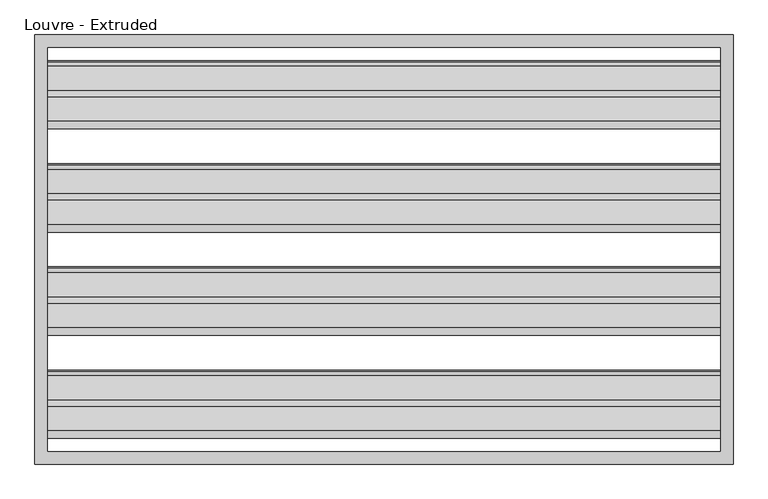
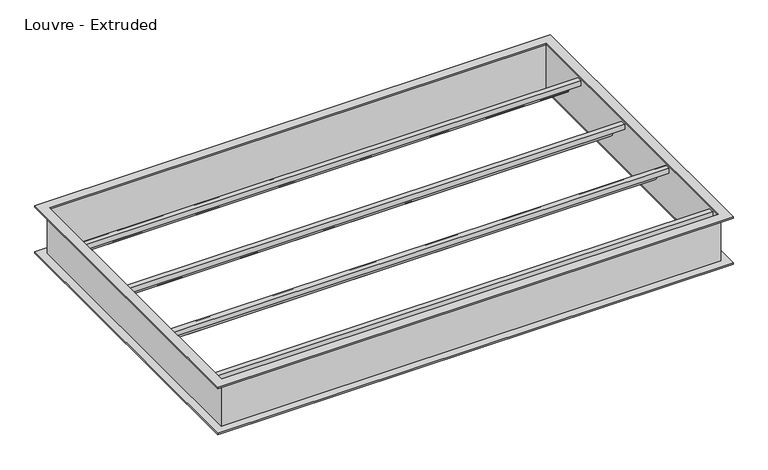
"""IFC4 building model written with IfcOpenShell, lengths in millimetres: air terminal geometry, Louvre - Extruded : Standard Exaust."""

from ifc_helpers import new_model, si_unit, point, frame, frame_2d, origin, place, context, project, spatial, polyline, circle_curve, trimmed, segment, composite_curve, outline, extrude, source, transform, mapped, element, save


def louvre_extruded_d47c0ff8(model_context):
    return source(origin(), model_context, "Body", "SweptSolid", [
        extrude(outline(composite_curve([segment(polyline([(25.9166667, -16.66875), (25.9166667, -6.35), (37.0291667, -6.35), (72.9606117, -44.7233879)]), True, "CONTINUOUS"), segment(trimmed(circle_curve(frame_2d((76.7166667, -50.8)), 7.14375), [point((72.9606117, -44.7233879))], [point((82.5335566, -54.9469213))], True, "CARTESIAN"), True, "CONTINUOUS"), segment(polyline([(82.5335566, -54.9469213), (118.7854167, -93.6625), (125.9291667, -93.6625), (125.9291667, -84.93125), (127.5166667, -84.93125), (127.5166667, -95.25), (117.9916667, -95.25), (82.497417, -57.3435198)]), True, "CONTINUOUS"), segment(trimmed(circle_curve(frame_2d((76.7166667, -50.8)), 8.73125), [point((82.497417, -57.3435198))], [point((70.5668115, -44.6020965))], False, "CARTESIAN"), True, "CONTINUOUS"), segment(polyline([(70.5668115, -44.6020965), (36.2354167, -7.9375), (27.5041667, -7.9375), (27.5041667, -16.66875), (25.9166667, -16.66875)]), True, "CONTINUOUS")], self_intersect=False)), frame((-500.0, 0.0, 0.0), z_axis=(1.0, 0.0, 0.0), x_axis=(0.0, 1.0, 0.0)), (0.0, 0.0, 1.0), 1000.0),
        extrude(outline(composite_curve([segment(polyline([(-127.5166667, -16.66875), (-127.5166667, -6.35), (-116.4041667, -6.35), (-80.4727217, -44.7233879)]), True, "CONTINUOUS"), segment(trimmed(circle_curve(frame_2d((-76.7166667, -50.8)), 7.14375), [point((-80.4727217, -44.7233879))], [point((-70.8997768, -54.9469213))], True, "CARTESIAN"), True, "CONTINUOUS"), segment(polyline([(-70.8997768, -54.9469213), (-34.6479167, -93.6625), (-27.5041667, -93.6625), (-27.5041667, -84.93125), (-25.9166667, -84.93125), (-25.9166667, -95.25), (-35.4416667, -95.25), (-70.9359163, -57.3435198)]), True, "CONTINUOUS"), segment(trimmed(circle_curve(frame_2d((-76.7166667, -50.8)), 8.73125), [point((-70.9359163, -57.3435198))], [point((-82.8665218, -44.6020965))], False, "CARTESIAN"), True, "CONTINUOUS"), segment(polyline([(-82.8665218, -44.6020965), (-117.1979167, -7.9375), (-125.9291667, -7.9375), (-125.9291667, -16.66875), (-127.5166667, -16.66875)]), True, "CONTINUOUS")], self_intersect=False)), frame((-500.0, 0.0, 0.0), z_axis=(1.0, 0.0, 0.0), x_axis=(0.0, 1.0, 0.0)), (0.0, 0.0, 1.0), 1000.0),
        extrude(outline(composite_curve([segment(polyline([(179.35, -16.66875), (179.35, -6.35), (190.4625, -6.35), (226.393945, -44.7233879)]), True, "CONTINUOUS"), segment(trimmed(circle_curve(frame_2d((230.15, -50.8)), 7.14375), [point((226.393945, -44.7233879))], [point((235.9668899, -54.9469213))], True, "CARTESIAN"), True, "CONTINUOUS"), segment(polyline([(235.9668899, -54.9469213), (272.21875, -93.6625), (279.3625, -93.6625), (279.3625, -84.93125), (280.95, -84.93125), (280.95, -95.25), (271.425, -95.25), (235.9307504, -57.3435198)]), True, "CONTINUOUS"), segment(trimmed(circle_curve(frame_2d((230.15, -50.8)), 8.73125), [point((235.9307504, -57.3435198))], [point((224.0001449, -44.6020965))], False, "CARTESIAN"), True, "CONTINUOUS"), segment(polyline([(224.0001449, -44.6020965), (189.66875, -7.9375), (180.9375, -7.9375), (180.9375, -16.66875), (179.35, -16.66875)]), True, "CONTINUOUS")], self_intersect=False)), frame((-500.0, 0.0, 0.0), z_axis=(1.0, 0.0, 0.0), x_axis=(0.0, 1.0, 0.0)), (0.0, 0.0, 1.0), 1000.0),
        extrude(outline(composite_curve([segment(polyline([(-280.95, -16.66875), (-280.95, -6.35), (-269.8375, -6.35), (-233.906055, -44.7233879)]), True, "CONTINUOUS"), segment(trimmed(circle_curve(frame_2d((-230.15, -50.8)), 7.14375), [point((-233.906055, -44.7233879))], [point((-224.3331101, -54.9469213))], True, "CARTESIAN"), True, "CONTINUOUS"), segment(polyline([(-224.3331101, -54.9469213), (-188.08125, -93.6625), (-180.9375, -93.6625), (-180.9375, -84.93125), (-179.35, -84.93125), (-179.35, -95.25), (-188.875, -95.25), (-224.3692496, -57.3435198)]), True, "CONTINUOUS"), segment(trimmed(circle_curve(frame_2d((-230.15, -50.8)), 8.73125), [point((-224.3692496, -57.3435198))], [point((-236.2998551, -44.6020965))], False, "CARTESIAN"), True, "CONTINUOUS"), segment(polyline([(-236.2998551, -44.6020965), (-270.63125, -7.9375), (-279.3625, -7.9375), (-279.3625, -16.66875), (-280.95, -16.66875)]), True, "CONTINUOUS")], self_intersect=False)), frame((-500.0, 0.0, 0.0), z_axis=(1.0, 0.0, 0.0), x_axis=(0.0, 1.0, 0.0)), (0.0, 0.0, 1.0), 1000.0),
        extrude(outline(polyline([(503.175, 303.175), (503.175, -303.175), (-503.175, -303.175), (-503.175, 303.175), (503.175, 303.175)]), holes=[polyline([(500.0, 300.0), (-500.0, 300.0), (-500.0, -300.0), (500.0, -300.0), (500.0, 300.0)])]), frame((0.0, 0.0, -98.425), z_axis=(0.0, 0.0, 1.0), x_axis=(1.0, 0.0, 0.0)), (0.0, 0.0, 1.0), 95.25),
        extrude(outline(polyline([(519.05, 319.05), (519.05, -319.05), (-519.05, -319.05), (-519.05, 319.05), (519.05, 319.05)]), holes=[polyline([(500.0, 300.0), (-500.0, 300.0), (-500.0, -300.0), (500.0, -300.0), (500.0, 300.0)])]), frame((0.0, 0.0, -101.6), z_axis=(0.0, 0.0, 1.0), x_axis=(1.0, 0.0, 0.0)), (0.0, 0.0, 1.0), 3.175),
        extrude(outline(polyline([(519.05, 319.05), (519.05, -319.05), (-519.05, -319.05), (-519.05, 319.05), (519.05, 319.05)]), holes=[polyline([(500.0, 300.0), (-500.0, 300.0), (-500.0, -300.0), (500.0, -300.0), (500.0, 300.0)])]), frame((0.0, 0.0, -3.175), z_axis=(0.0, 0.0, 1.0), x_axis=(1.0, 0.0, 0.0)), (0.0, 0.0, 1.0), 3.175),
    ])


if __name__ == "__main__":
    model = new_model("IFC4")
    model_context = context("Model", 3, world=origin())
    ifc_project = project(units=[si_unit("LENGTHUNIT", "METRE", prefix="MILLI")], contexts=[model_context])
    site = spatial("IfcSite", under=ifc_project)
    building = spatial("IfcBuilding", under=site)
    placement = place(None, origin())
    louvre_extruded_shape = louvre_extruded_d47c0ff8(model_context)
    element("IfcAirTerminal", 1, ObjectType="Louvre - Extruded : Standard Exaust", at=placement, inside=building, context=model_context, shape_type="MappedRepresentation", body=[
        mapped(louvre_extruded_shape, transform((0.0, 0.0, 0.0), x_axis=(1.0, 0.0, 0.0), y_axis=(0.0, 1.0, 0.0), z_axis=(0.0, 0.0, 1.0))),
    ])
    save(model, "model.ifc")
